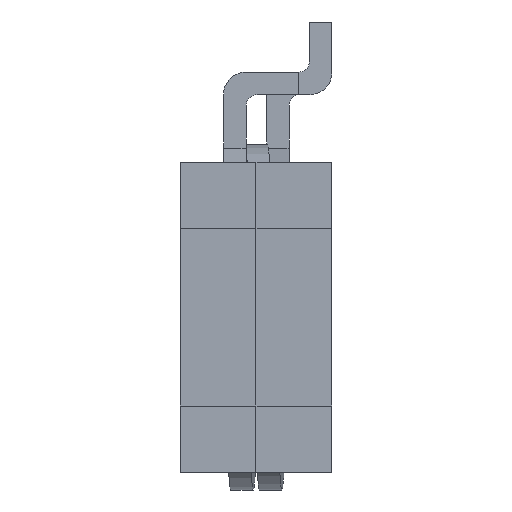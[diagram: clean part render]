
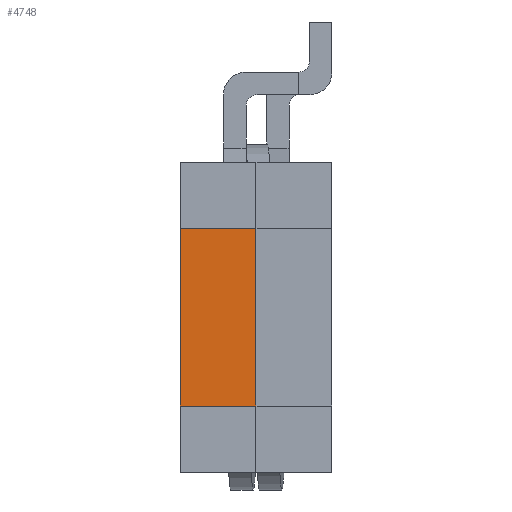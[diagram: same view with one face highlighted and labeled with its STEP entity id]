
A CAD part, left-side view. The second image highlights one B-rep face of the part: STEP entity #4748.
In plain terms, the highlighted planar face has unit normal (-1, 0, 0).
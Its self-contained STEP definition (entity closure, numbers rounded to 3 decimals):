
#136 = VERTEX_POINT ( 'NONE', #3508 ) ;
#203 = CARTESIAN_POINT ( 'NONE',  ( -10.017, 12.854, 15.684 ) ) ;
#301 = LINE ( 'NONE', #5326, #1345 ) ;
#305 = CARTESIAN_POINT ( 'NONE',  ( -10.017, 12.854, 15.684 ) ) ;
#306 = ORIENTED_EDGE ( 'NONE', *, *, #4299, .F. ) ;
#505 = CARTESIAN_POINT ( 'NONE',  ( -10.017, 12.854, 23.724 ) ) ;
#934 = VERTEX_POINT ( 'NONE', #3465 ) ;
#942 = DIRECTION ( 'NONE',  ( 1., 0., 0. ) ) ;
#1260 = ORIENTED_EDGE ( 'NONE', *, *, #3469, .T. ) ;
#1345 = VECTOR ( 'NONE', #4397, 1000. ) ;
#1411 = DIRECTION ( 'NONE',  ( 0., 0., -1. ) ) ;
#1730 = DIRECTION ( 'NONE',  ( 0., -1., 0. ) ) ;
#2063 = CARTESIAN_POINT ( 'NONE',  ( -10.017, 12.854, 23.724 ) ) ;
#2139 = CARTESIAN_POINT ( 'NONE',  ( -10.017, 12.854, 23.724 ) ) ;
#2282 = CARTESIAN_POINT ( 'NONE',  ( -10.017, 9.404, 23.724 ) ) ;
#2283 = EDGE_LOOP ( 'NONE', ( #1260, #3787, #306, #4246 ) ) ;
#2306 = VECTOR ( 'NONE', #1730, 1000. ) ;
#2517 = EDGE_CURVE ( 'NONE', #2965, #934, #4827, .T. ) ;
#2551 = VECTOR ( 'NONE', #3187, 1000. ) ;
#2606 = DIRECTION ( 'NONE',  ( 0., -1., 0. ) ) ;
#2965 = VERTEX_POINT ( 'NONE', #2139 ) ;
#3155 = AXIS2_PLACEMENT_3D ( 'NONE', #505, #942, #1411 ) ;
#3187 = DIRECTION ( 'NONE',  ( 0., 0., 1. ) ) ;
#3235 = PLANE ( 'NONE',  #3155 ) ;
#3465 = CARTESIAN_POINT ( 'NONE',  ( -10.017, 9.404, 23.724 ) ) ;
#3469 = EDGE_CURVE ( 'NONE', #136, #934, #3768, .T. ) ;
#3508 = CARTESIAN_POINT ( 'NONE',  ( -10.017, 9.404, 15.684 ) ) ;
#3768 = LINE ( 'NONE', #2282, #2551 ) ;
#3787 = ORIENTED_EDGE ( 'NONE', *, *, #2517, .F. ) ;
#4228 = VECTOR ( 'NONE', #2606, 1000. ) ;
#4246 = ORIENTED_EDGE ( 'NONE', *, *, #5895, .T. ) ;
#4277 = VERTEX_POINT ( 'NONE', #203 ) ;
#4299 = EDGE_CURVE ( 'NONE', #4277, #2965, #301, .T. ) ;
#4397 = DIRECTION ( 'NONE',  ( 0., 0., 1. ) ) ;
#4600 = FACE_OUTER_BOUND ( 'NONE', #2283, .T. ) ;
#4748 = ADVANCED_FACE ( 'NONE', ( #4600 ), #3235, .F. ) ;
#4827 = LINE ( 'NONE', #2063, #4228 ) ;
#5007 = LINE ( 'NONE', #305, #2306 ) ;
#5326 = CARTESIAN_POINT ( 'NONE',  ( -10.017, 12.854, 23.724 ) ) ;
#5895 = EDGE_CURVE ( 'NONE', #4277, #136, #5007, .T. ) ;
